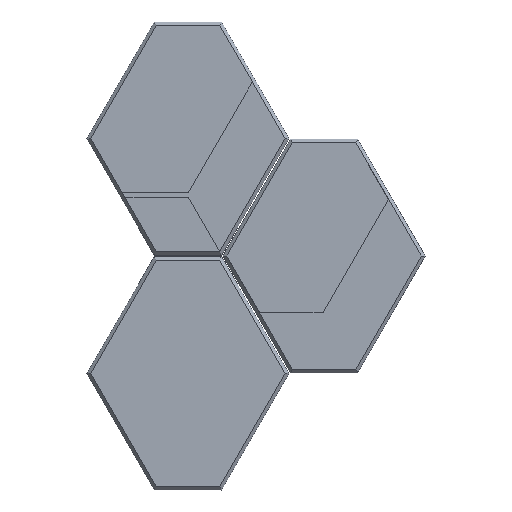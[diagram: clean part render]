
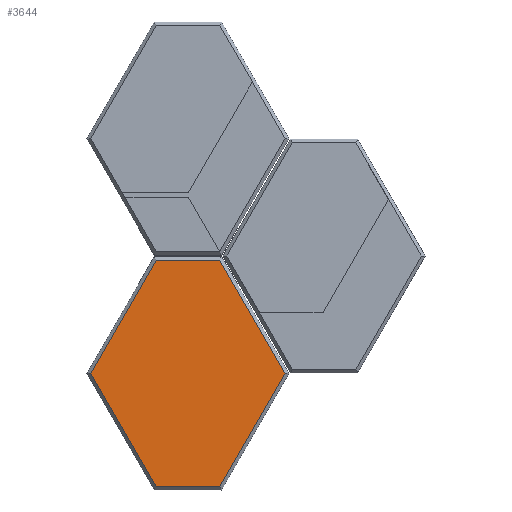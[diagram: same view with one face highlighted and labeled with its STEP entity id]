
A CAD part, front view. The second image highlights one B-rep face of the part: STEP entity #3644.
In plain terms, the highlighted planar face has unit normal (0, -1, 0) as drawn and (0, 0, 1) by its records, which use the part's own axes.
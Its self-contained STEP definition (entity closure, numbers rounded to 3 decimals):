
#17 = FACE_OUTER_BOUND ( 'NONE', #843, .T. ) ;
#62 = VERTEX_POINT ( 'NONE', #6815 ) ;
#326 = VECTOR ( 'NONE', #8513, 1000. ) ;
#561 = VECTOR ( 'NONE', #7482, 1000. ) ;
#658 = ORIENTED_EDGE ( 'NONE', *, *, #1291, .T. ) ;
#843 = EDGE_LOOP ( 'NONE', ( #658, #4492, #10427, #3827, #6330, #4910 ) ) ;
#906 = VERTEX_POINT ( 'NONE', #11124 ) ;
#982 = DIRECTION ( 'NONE',  ( -0.5, -0.866, 0. ) ) ;
#1025 = CARTESIAN_POINT ( 'NONE',  ( -95.229, 340., 20. ) ) ;
#1291 = EDGE_CURVE ( 'NONE', #3521, #9935, #7797, .T. ) ;
#1314 = LINE ( 'NONE', #5980, #3330 ) ;
#1639 = VECTOR ( 'NONE', #5593, 1000. ) ;
#1820 = PLANE ( 'NONE',  #6705 ) ;
#2262 = VECTOR ( 'NONE', #982, 1000. ) ;
#2358 = CARTESIAN_POINT ( 'NONE',  ( -95.229, -340., 20. ) ) ;
#2665 = LINE ( 'NONE', #7922, #8425 ) ;
#2676 = LINE ( 'NONE', #10880, #2262 ) ;
#2916 = CARTESIAN_POINT ( 'NONE',  ( -218.679, -126.365, 20. ) ) ;
#2947 = LINE ( 'NONE', #4661, #1639 ) ;
#3330 = VECTOR ( 'NONE', #11271, 1000. ) ;
#3468 = EDGE_CURVE ( 'NONE', #62, #8317, #1314, .T. ) ;
#3521 = VERTEX_POINT ( 'NONE', #2358 ) ;
#3644 = ADVANCED_FACE ( 'NONE', ( #17 ), #1820, .T. ) ;
#3827 = ORIENTED_EDGE ( 'NONE', *, *, #6344, .T. ) ;
#4032 = LINE ( 'NONE', #2916, #561 ) ;
#4233 = CARTESIAN_POINT ( 'NONE',  ( 0., -340., 20. ) ) ;
#4492 = ORIENTED_EDGE ( 'NONE', *, *, #10222, .T. ) ;
#4661 = CARTESIAN_POINT ( 'NONE',  ( 0., 340., 20. ) ) ;
#4910 = ORIENTED_EDGE ( 'NONE', *, *, #9491, .T. ) ;
#5329 = DIRECTION ( 'NONE',  ( 0., 0., 1. ) ) ;
#5392 = DIRECTION ( 'NONE',  ( 1., 0., 0. ) ) ;
#5593 = DIRECTION ( 'NONE',  ( -1., 0., 0. ) ) ;
#5980 = CARTESIAN_POINT ( 'NONE',  ( 218.679, 126.365, 20. ) ) ;
#6269 = VERTEX_POINT ( 'NONE', #1025 ) ;
#6330 = ORIENTED_EDGE ( 'NONE', *, *, #9728, .T. ) ;
#6344 = EDGE_CURVE ( 'NONE', #8317, #6269, #2947, .T. ) ;
#6705 = AXIS2_PLACEMENT_3D ( 'NONE', #7204, #5329, #5392 ) ;
#6815 = CARTESIAN_POINT ( 'NONE',  ( 291.7, 0., 20. ) ) ;
#7204 = CARTESIAN_POINT ( 'NONE',  ( 0., 0., 20. ) ) ;
#7482 = DIRECTION ( 'NONE',  ( 0.5, -0.866, 0. ) ) ;
#7797 = LINE ( 'NONE', #4233, #326 ) ;
#7922 = CARTESIAN_POINT ( 'NONE',  ( 218.679, -126.365, 20. ) ) ;
#8317 = VERTEX_POINT ( 'NONE', #9122 ) ;
#8411 = CARTESIAN_POINT ( 'NONE',  ( 95.229, -340., 20. ) ) ;
#8425 = VECTOR ( 'NONE', #11497, 1000. ) ;
#8513 = DIRECTION ( 'NONE',  ( 1., 0., 0. ) ) ;
#9122 = CARTESIAN_POINT ( 'NONE',  ( 95.229, 340., 20. ) ) ;
#9491 = EDGE_CURVE ( 'NONE', #906, #3521, #4032, .T. ) ;
#9728 = EDGE_CURVE ( 'NONE', #6269, #906, #2676, .T. ) ;
#9935 = VERTEX_POINT ( 'NONE', #8411 ) ;
#10222 = EDGE_CURVE ( 'NONE', #9935, #62, #2665, .T. ) ;
#10427 = ORIENTED_EDGE ( 'NONE', *, *, #3468, .T. ) ;
#10880 = CARTESIAN_POINT ( 'NONE',  ( -218.679, 126.365, 20. ) ) ;
#11124 = CARTESIAN_POINT ( 'NONE',  ( -291.7, 0., 20. ) ) ;
#11271 = DIRECTION ( 'NONE',  ( -0.5, 0.866, 0. ) ) ;
#11497 = DIRECTION ( 'NONE',  ( 0.5, 0.866, 0. ) ) ;
